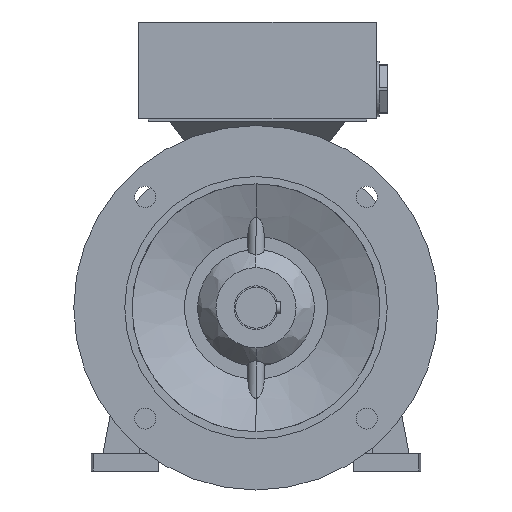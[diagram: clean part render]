
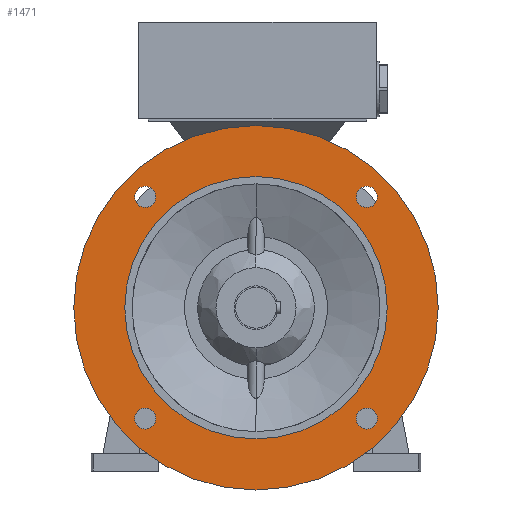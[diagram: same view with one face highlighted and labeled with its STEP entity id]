
A CAD part, left-side view. The second image highlights one B-rep face of the part: STEP entity #1471.
In plain terms, the highlighted planar face has unit normal (-1, 0, 0).
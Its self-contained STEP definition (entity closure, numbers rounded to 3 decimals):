
#61 = CIRCLE ( 'NONE', #686, 90. ) ;
#76 = CIRCLE ( 'NONE', #687, 125. ) ;
#78 = CIRCLE ( 'NONE', #688, 7.25 ) ;
#80 = CIRCLE ( 'NONE', #689, 7.25 ) ;
#81 = CIRCLE ( 'NONE', #690, 7.25 ) ;
#82 = CIRCLE ( 'NONE', #691, 7.25 ) ;
#481 = AXIS2_PLACEMENT_3D ( 'NONE', #4214, #4215, #4216 ) ;
#482 = AXIS2_PLACEMENT_3D ( 'NONE', #4219, #4220, #4221 ) ;
#484 = AXIS2_PLACEMENT_3D ( 'NONE', #4229, #4230, #4231 ) ;
#486 = AXIS2_PLACEMENT_3D ( 'NONE', #4239, #4240, #4241 ) ;
#646 = AXIS2_PLACEMENT_3D ( 'NONE', #14154, #14157, #14159 ) ;
#648 = AXIS2_PLACEMENT_3D ( 'NONE', #14192, #14195, #14198 ) ;
#686 = AXIS2_PLACEMENT_3D ( 'NONE', #11487, #11488, #11489 ) ;
#687 = AXIS2_PLACEMENT_3D ( 'NONE', #11502, #11503, #11504 ) ;
#688 = AXIS2_PLACEMENT_3D ( 'NONE', #11505, #11506, #11507 ) ;
#689 = AXIS2_PLACEMENT_3D ( 'NONE', #11509, #11510, #11511 ) ;
#690 = AXIS2_PLACEMENT_3D ( 'NONE', #11512, #11513, #11514 ) ;
#691 = AXIS2_PLACEMENT_3D ( 'NONE', #11517, #11518, #11519 ) ;
#1471 = ADVANCED_FACE ( 'NONE', ( #13404, #13408, #13389, #13406, #13395, #13411 ), #16510, .T. ) ;
#4214 = CARTESIAN_POINT ( 'NONE',  ( -40., 0., 0. ) ) ;
#4215 = DIRECTION ( 'NONE',  ( 1., 0., 0. ) ) ;
#4216 = DIRECTION ( 'NONE',  ( 0., 0., 1. ) ) ;
#4219 = CARTESIAN_POINT ( 'NONE',  ( -40., -76.014, 76.014 ) ) ;
#4220 = DIRECTION ( 'NONE',  ( 1., 0., 0. ) ) ;
#4221 = DIRECTION ( 'NONE',  ( 0., 0., -1. ) ) ;
#4229 = CARTESIAN_POINT ( 'NONE',  ( -40., 76.014, 76.014 ) ) ;
#4230 = DIRECTION ( 'NONE',  ( 1., 0., 0. ) ) ;
#4231 = DIRECTION ( 'NONE',  ( 0., 0., -1. ) ) ;
#4239 = CARTESIAN_POINT ( 'NONE',  ( -40., 76.014, -76.014 ) ) ;
#4240 = DIRECTION ( 'NONE',  ( 1., 0., 0. ) ) ;
#4241 = DIRECTION ( 'NONE',  ( 0., 0., -1. ) ) ;
#8422 = AXIS2_PLACEMENT_3D ( 'NONE', #16516, #16511, #16517 ) ;
#10041 = EDGE_CURVE ( 'NONE', #15360, #15361, #21734, .T. ) ;
#10043 = EDGE_CURVE ( 'NONE', #15372, #15348, #21735, .T. ) ;
#10047 = EDGE_CURVE ( 'NONE', #15370, #15367, #21743, .T. ) ;
#10051 = EDGE_CURVE ( 'NONE', #15347, #15344, #21749, .T. ) ;
#10668 = EDGE_LOOP ( 'NONE', ( #14029, #14031 ) ) ;
#10673 = EDGE_LOOP ( 'NONE', ( #14026, #14027 ) ) ;
#10687 = EDGE_LOOP ( 'NONE', ( #14022, #14024 ) ) ;
#10690 = EDGE_LOOP ( 'NONE', ( #25565, #14019 ) ) ;
#10694 = EDGE_LOOP ( 'NONE', ( #25563, #25564 ) ) ;
#11487 = CARTESIAN_POINT ( 'NONE',  ( -40., 0., 0. ) ) ;
#11488 = DIRECTION ( 'NONE',  ( 1., 0., 0. ) ) ;
#11489 = DIRECTION ( 'NONE',  ( 0., 0., 1. ) ) ;
#11502 = CARTESIAN_POINT ( 'NONE',  ( -40., 0., 0. ) ) ;
#11503 = DIRECTION ( 'NONE',  ( 1., 0., 0. ) ) ;
#11504 = DIRECTION ( 'NONE',  ( 0., 0., 1. ) ) ;
#11505 = CARTESIAN_POINT ( 'NONE',  ( -40., -76.014, 76.014 ) ) ;
#11506 = DIRECTION ( 'NONE',  ( 1., 0., 0. ) ) ;
#11507 = DIRECTION ( 'NONE',  ( 0., 0., -1. ) ) ;
#11509 = CARTESIAN_POINT ( 'NONE',  ( -40., 76.014, 76.014 ) ) ;
#11510 = DIRECTION ( 'NONE',  ( 1., 0., 0. ) ) ;
#11511 = DIRECTION ( 'NONE',  ( 0., 0., -1. ) ) ;
#11512 = CARTESIAN_POINT ( 'NONE',  ( -40., 76.014, -76.014 ) ) ;
#11513 = DIRECTION ( 'NONE',  ( 1., 0., 0. ) ) ;
#11514 = DIRECTION ( 'NONE',  ( 0., 0., -1. ) ) ;
#11517 = CARTESIAN_POINT ( 'NONE',  ( -40., -76.014, -76.014 ) ) ;
#11518 = DIRECTION ( 'NONE',  ( 1., 0., 0. ) ) ;
#11519 = DIRECTION ( 'NONE',  ( 0., 0., -1. ) ) ;
#13389 = FACE_BOUND ( 'NONE', #10687, .T. ) ;
#13395 = FACE_BOUND ( 'NONE', #10668, .T. ) ;
#13404 = FACE_OUTER_BOUND ( 'NONE', #10694, .T. ) ;
#13406 = FACE_BOUND ( 'NONE', #10673, .T. ) ;
#13408 = FACE_BOUND ( 'NONE', #10690, .T. ) ;
#13411 = FACE_BOUND ( 'NONE', #15161, .T. ) ;
#14019 = ORIENTED_EDGE ( 'NONE', *, *, #23006, .T. ) ;
#14022 = ORIENTED_EDGE ( 'NONE', *, *, #24515, .T. ) ;
#14024 = ORIENTED_EDGE ( 'NONE', *, *, #10043, .T. ) ;
#14026 = ORIENTED_EDGE ( 'NONE', *, *, #24517, .T. ) ;
#14027 = ORIENTED_EDGE ( 'NONE', *, *, #10047, .T. ) ;
#14029 = ORIENTED_EDGE ( 'NONE', *, *, #24519, .T. ) ;
#14031 = ORIENTED_EDGE ( 'NONE', *, *, #10051, .T. ) ;
#14034 = ORIENTED_EDGE ( 'NONE', *, *, #24522, .T. ) ;
#14036 = ORIENTED_EDGE ( 'NONE', *, *, #23002, .T. ) ;
#14154 = CARTESIAN_POINT ( 'NONE',  ( -40., -76.014, -76.014 ) ) ;
#14157 = DIRECTION ( 'NONE',  ( 1., 0., 0. ) ) ;
#14159 = DIRECTION ( 'NONE',  ( 0., 0., -1. ) ) ;
#14192 = CARTESIAN_POINT ( 'NONE',  ( -40., 0., 0. ) ) ;
#14195 = DIRECTION ( 'NONE',  ( 1., 0., 0. ) ) ;
#14198 = DIRECTION ( 'NONE',  ( 0., 0., 1. ) ) ;
#15161 = EDGE_LOOP ( 'NONE', ( #14034, #14036 ) ) ;
#15336 = VERTEX_POINT ( 'NONE', #20913 ) ;
#15339 = VERTEX_POINT ( 'NONE', #20916 ) ;
#15340 = VERTEX_POINT ( 'NONE', #20917 ) ;
#15343 = VERTEX_POINT ( 'NONE', #20920 ) ;
#15344 = VERTEX_POINT ( 'NONE', #20921 ) ;
#15347 = VERTEX_POINT ( 'NONE', #20924 ) ;
#15348 = VERTEX_POINT ( 'NONE', #20925 ) ;
#15360 = VERTEX_POINT ( 'NONE', #20937 ) ;
#15361 = VERTEX_POINT ( 'NONE', #20938 ) ;
#15367 = VERTEX_POINT ( 'NONE', #20944 ) ;
#15370 = VERTEX_POINT ( 'NONE', #20947 ) ;
#15372 = VERTEX_POINT ( 'NONE', #20949 ) ;
#16510 = PLANE ( 'NONE',  #8422 ) ;
#16511 = DIRECTION ( 'NONE',  ( -1., 0., 0. ) ) ;
#16516 = CARTESIAN_POINT ( 'NONE',  ( -40., 107.5, 0. ) ) ;
#16517 = DIRECTION ( 'NONE',  ( 0., 0., 1. ) ) ;
#20913 = CARTESIAN_POINT ( 'NONE',  ( -40., 0., 90. ) ) ;
#20916 = CARTESIAN_POINT ( 'NONE',  ( -40., 0., -90. ) ) ;
#20917 = CARTESIAN_POINT ( 'NONE',  ( -40., -76.014, -83.264 ) ) ;
#20920 = CARTESIAN_POINT ( 'NONE',  ( -40., -76.014, -68.764 ) ) ;
#20921 = CARTESIAN_POINT ( 'NONE',  ( -40., 76.014, -83.264 ) ) ;
#20924 = CARTESIAN_POINT ( 'NONE',  ( -40., 76.014, -68.764 ) ) ;
#20925 = CARTESIAN_POINT ( 'NONE',  ( -40., -76.014, 68.764 ) ) ;
#20937 = CARTESIAN_POINT ( 'NONE',  ( -40., 0., -125. ) ) ;
#20938 = CARTESIAN_POINT ( 'NONE',  ( -40., 0., 125. ) ) ;
#20944 = CARTESIAN_POINT ( 'NONE',  ( -40., 76.014, 68.764 ) ) ;
#20947 = CARTESIAN_POINT ( 'NONE',  ( -40., 76.014, 83.264 ) ) ;
#20949 = CARTESIAN_POINT ( 'NONE',  ( -40., -76.014, 83.264 ) ) ;
#21734 = CIRCLE ( 'NONE', #481, 125. ) ;
#21735 = CIRCLE ( 'NONE', #482, 7.25 ) ;
#21743 = CIRCLE ( 'NONE', #484, 7.25 ) ;
#21749 = CIRCLE ( 'NONE', #486, 7.25 ) ;
#23002 = EDGE_CURVE ( 'NONE', #15343, #15340, #23672, .T. ) ;
#23006 = EDGE_CURVE ( 'NONE', #15339, #15336, #23689, .T. ) ;
#23672 = CIRCLE ( 'NONE', #646, 7.25 ) ;
#23689 = CIRCLE ( 'NONE', #648, 90. ) ;
#24494 = EDGE_CURVE ( 'NONE', #15336, #15339, #61, .T. ) ;
#24513 = EDGE_CURVE ( 'NONE', #15361, #15360, #76, .T. ) ;
#24515 = EDGE_CURVE ( 'NONE', #15348, #15372, #78, .T. ) ;
#24517 = EDGE_CURVE ( 'NONE', #15367, #15370, #80, .T. ) ;
#24519 = EDGE_CURVE ( 'NONE', #15344, #15347, #81, .T. ) ;
#24522 = EDGE_CURVE ( 'NONE', #15340, #15343, #82, .T. ) ;
#25563 = ORIENTED_EDGE ( 'NONE', *, *, #24513, .F. ) ;
#25564 = ORIENTED_EDGE ( 'NONE', *, *, #10041, .F. ) ;
#25565 = ORIENTED_EDGE ( 'NONE', *, *, #24494, .T. ) ;
